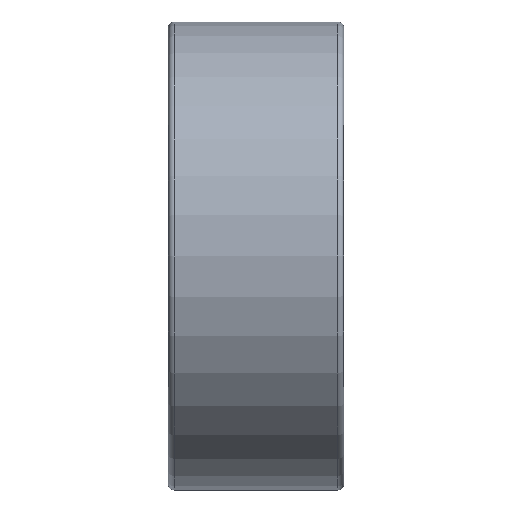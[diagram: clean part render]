
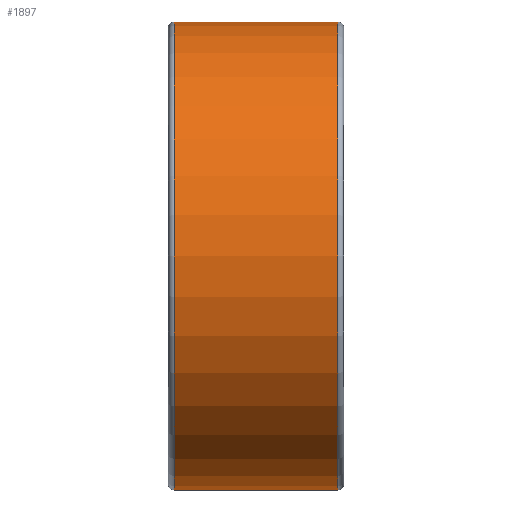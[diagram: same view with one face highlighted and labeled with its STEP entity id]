
A CAD part, front view. The second image highlights one B-rep face of the part: STEP entity #1897.
In plain terms, the highlighted cylindrical face has radius 4 mm (diameter 8 mm), a partial arc.
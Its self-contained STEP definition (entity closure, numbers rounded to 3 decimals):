
#209=CARTESIAN_POINT('',(1.4,0.,0.));
#210=DIRECTION('',(-1.,0.,0.));
#211=DIRECTION('',(0.,0.,-1.));
#212=AXIS2_PLACEMENT_3D('',#209,#210,#211);
#798=DIRECTION('',(-1.,0.,0.));
#799=VECTOR('',#798,2.8);
#800=CARTESIAN_POINT('',(1.4,0.,4.));
#801=LINE('',#800,#799);
#802=DIRECTION('',(-1.,0.,0.));
#803=VECTOR('',#802,2.8);
#804=CARTESIAN_POINT('',(1.4,0.,-4.));
#805=LINE('',#804,#803);
#811=CARTESIAN_POINT('',(-1.4,0.,0.));
#812=DIRECTION('',(1.,0.,0.));
#813=DIRECTION('',(0.,0.,1.));
#814=AXIS2_PLACEMENT_3D('',#811,#812,#813);
#966=CARTESIAN_POINT('',(1.4,0.,4.));
#967=VERTEX_POINT('',#966);
#968=CARTESIAN_POINT('',(1.4,0.,-4.));
#969=VERTEX_POINT('',#968);
#970=CARTESIAN_POINT('',(-1.4,0.,-4.));
#971=VERTEX_POINT('',#970);
#972=CARTESIAN_POINT('',(-1.4,0.,4.));
#973=VERTEX_POINT('',#972);
#1885=CARTESIAN_POINT('',(0.,0.,0.));
#1886=DIRECTION('',(-1.,0.,0.));
#1887=DIRECTION('',(0.,0.,1.));
#1888=AXIS2_PLACEMENT_3D('',#1885,#1886,#1887);
#1889=CYLINDRICAL_SURFACE('',#1888,4.);
#1890=ORIENTED_EDGE('',*,*,#1880,.T.);
#1892=ORIENTED_EDGE('',*,*,#1891,.F.);
#1893=ORIENTED_EDGE('',*,*,#1877,.F.);
#1894=ORIENTED_EDGE('',*,*,#1021,.F.);
#1895=EDGE_LOOP('',(#1890,#1892,#1893,#1894));
#1896=FACE_OUTER_BOUND('',#1895,.F.);
#1897=ADVANCED_FACE('',(#1896),#1889,.T.);
#213=CIRCLE('',#212,4.);
#815=CIRCLE('',#814,4.);
#1021=EDGE_CURVE('',#969,#967,#213,.T.);
#1877=EDGE_CURVE('',#967,#973,#801,.T.);
#1880=EDGE_CURVE('',#969,#971,#805,.T.);
#1891=EDGE_CURVE('',#973,#971,#815,.T.);
